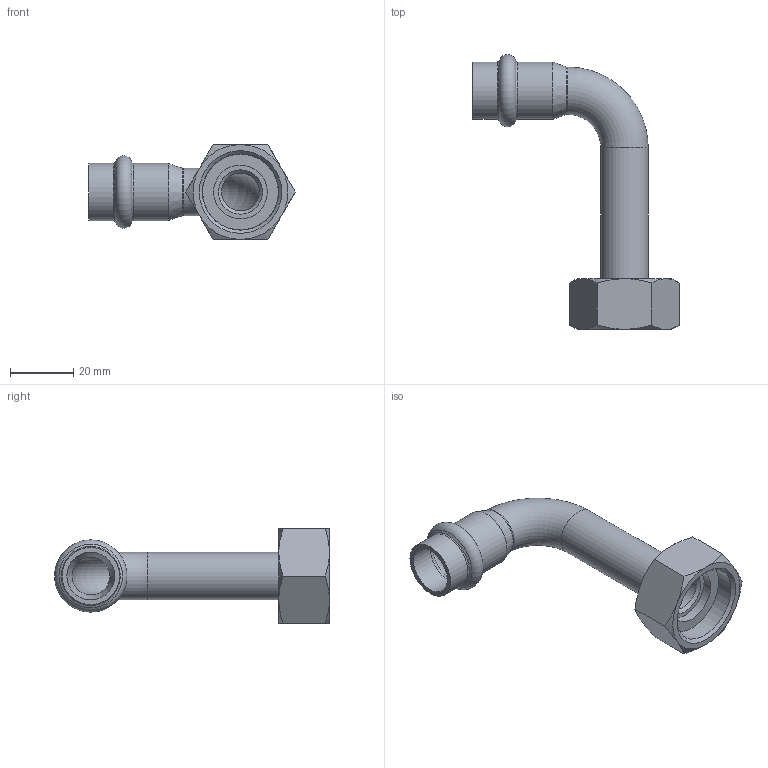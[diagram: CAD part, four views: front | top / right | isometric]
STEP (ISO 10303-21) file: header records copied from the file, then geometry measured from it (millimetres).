
FILE_DESCRIPTION((''),'2;1');
FILE_NAME('G:\Nirosan-Schmiedefeld\Technics\CAD\001 Serie 9.000\015\69002M1534H(4).stp','2017-06-21T11:25:43',('herberg'),(''),'Autodesk Inventor 2009','Autodesk Inventor 2009','');
FILE_SCHEMA(('AUTOMOTIVE_DESIGN { 1 0 10303 214 1 1 1 1 }'));
Length unit declared in the file: millimetre
Products named in the file (5): 69002M1534H(4); 69001A15(1); R1534(0); 69MS1534P(0); FD_2417_EPDM(0)
Assembly tree (4 placements, depth 2):
  69002M1534H(4)
    69001A15(1)
    R1534(0)
    69MS1534P(0)
    FD_2417_EPDM(0)
Bounding box: 65.32 x 86.94 x 30 mm (x, y, z)
Volume: 14499.8 mm3; surface area: 15259.8 mm2
Topology: 4 solids, 4 shells, 58 faces, 115 edges, 67 vertices
Faces by surface type: cone 18, plane 15, cylinder 13, bspline 7, torus 5
Full cylindrical faces by diameter (mm): 12 x3, 15 x3, 15.15 x2, 17 x1, 18.15 x2, 23 x1, 24 x1
Entity records: 1662 total; most frequent: CARTESIAN_POINT 508, DIRECTION 228, ORIENTED_EDGE 162, AXIS2_PLACEMENT_3D 111, EDGE_LOOP 98, EDGE_CURVE 81, VERTEX_POINT 63, FACE_OUTER_BOUND 58
